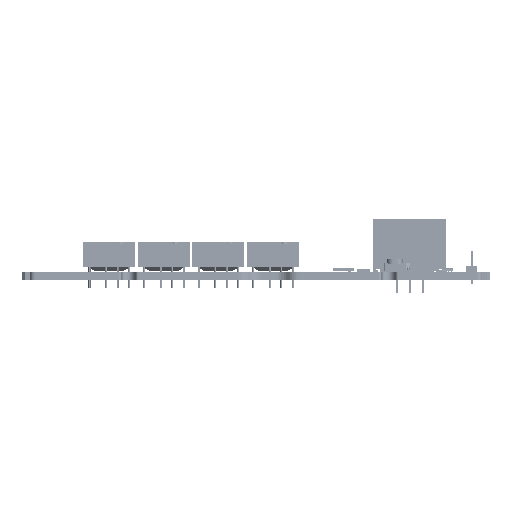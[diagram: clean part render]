
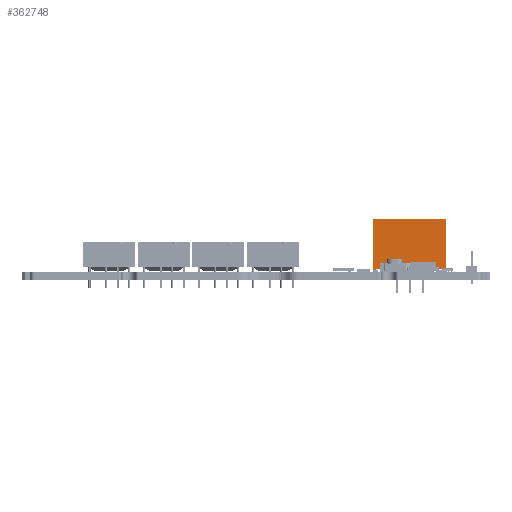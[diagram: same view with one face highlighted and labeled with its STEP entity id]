
A CAD part, front view. The second image highlights one B-rep face of the part: STEP entity #362748.
In plain terms, the highlighted planar face has unit normal (0, -1, 0).
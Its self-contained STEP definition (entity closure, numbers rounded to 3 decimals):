
#362673 = VERTEX_POINT('',#362674);
#362674 = CARTESIAN_POINT('',(80.56,58.09,
    0.));
#362691 = VERTEX_POINT('',#362692);
#362692 = CARTESIAN_POINT('',(81.06,58.09,
    0.));
#362698 = EDGE_CURVE('',#362673,#362691,#362699,.T.);
#362699 = LINE('',#362700,#362701);
#362700 = CARTESIAN_POINT('',(81.06,58.09,
    0.));
#362701 = VECTOR('',#362702,1.);
#362702 = DIRECTION('',(1.,0.,0.));
#362715 = VERTEX_POINT('',#362716);
#362716 = CARTESIAN_POINT('',(67.06,58.09,
    0.));
#362722 = EDGE_CURVE('',#362723,#362715,#362725,.T.);
#362723 = VERTEX_POINT('',#362724);
#362724 = CARTESIAN_POINT('',(67.06,58.09,
    10.1));
#362725 = LINE('',#362726,#362727);
#362726 = CARTESIAN_POINT('',(67.06,58.09,
    10.1));
#362727 = VECTOR('',#362728,1.);
#362728 = DIRECTION('',(0.,0.,-1.));
#362748 = ADVANCED_FACE('',(#362749),#362797,.F.);
#362749 = FACE_BOUND('',#362750,.T.);
#362750 = EDGE_LOOP('',(#362751,#362761,#362767,#362768,#362776,#362782,
    #362783,#362791));
#362751 = ORIENTED_EDGE('',*,*,#362752,.T.);
#362752 = EDGE_CURVE('',#362753,#362755,#362757,.T.);
#362753 = VERTEX_POINT('',#362754);
#362754 = CARTESIAN_POINT('',(67.56,58.09,
    0.5));
#362755 = VERTEX_POINT('',#362756);
#362756 = CARTESIAN_POINT('',(80.56,58.09,
    0.5));
#362757 = LINE('',#362758,#362759);
#362758 = CARTESIAN_POINT('',(80.56,58.09,
    0.5));
#362759 = VECTOR('',#362760,1.);
#362760 = DIRECTION('',(1.,0.,0.));
#362761 = ORIENTED_EDGE('',*,*,#362762,.T.);
#362762 = EDGE_CURVE('',#362755,#362673,#362763,.T.);
#362763 = LINE('',#362764,#362765);
#362764 = CARTESIAN_POINT('',(80.56,58.09,
    0.));
#362765 = VECTOR('',#362766,1.);
#362766 = DIRECTION('',(0.,0.,-1.));
#362767 = ORIENTED_EDGE('',*,*,#362698,.T.);
#362768 = ORIENTED_EDGE('',*,*,#362769,.F.);
#362769 = EDGE_CURVE('',#362770,#362691,#362772,.T.);
#362770 = VERTEX_POINT('',#362771);
#362771 = CARTESIAN_POINT('',(81.06,58.09,
    10.1));
#362772 = LINE('',#362773,#362774);
#362773 = CARTESIAN_POINT('',(81.06,58.09,
    10.1));
#362774 = VECTOR('',#362775,1.);
#362775 = DIRECTION('',(0.,0.,-1.));
#362776 = ORIENTED_EDGE('',*,*,#362777,.F.);
#362777 = EDGE_CURVE('',#362723,#362770,#362778,.T.);
#362778 = LINE('',#362779,#362780);
#362779 = CARTESIAN_POINT('',(81.06,58.09,
    10.1));
#362780 = VECTOR('',#362781,1.);
#362781 = DIRECTION('',(1.,0.,0.));
#362782 = ORIENTED_EDGE('',*,*,#362722,.T.);
#362783 = ORIENTED_EDGE('',*,*,#362784,.T.);
#362784 = EDGE_CURVE('',#362715,#362785,#362787,.T.);
#362785 = VERTEX_POINT('',#362786);
#362786 = CARTESIAN_POINT('',(67.56,58.09,
    0.));
#362787 = LINE('',#362788,#362789);
#362788 = CARTESIAN_POINT('',(81.06,58.09,
    0.));
#362789 = VECTOR('',#362790,1.);
#362790 = DIRECTION('',(1.,0.,0.));
#362791 = ORIENTED_EDGE('',*,*,#362792,.T.);
#362792 = EDGE_CURVE('',#362785,#362753,#362793,.T.);
#362793 = LINE('',#362794,#362795);
#362794 = CARTESIAN_POINT('',(67.56,58.09,
    0.));
#362795 = VECTOR('',#362796,1.);
#362796 = DIRECTION('',(0.,0.,1.));
#362797 = PLANE('',#362798);
#362798 = AXIS2_PLACEMENT_3D('',#362799,#362800,#362801);
#362799 = CARTESIAN_POINT('',(81.06,58.09,
    10.1));
#362800 = DIRECTION('',(0.,1.,0.));
#362801 = DIRECTION('',(-1.,0.,0.));
